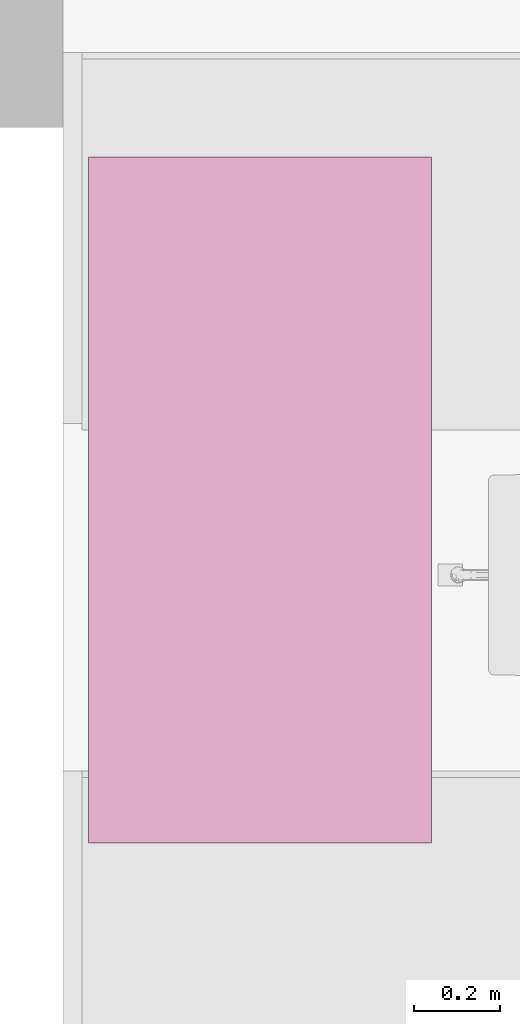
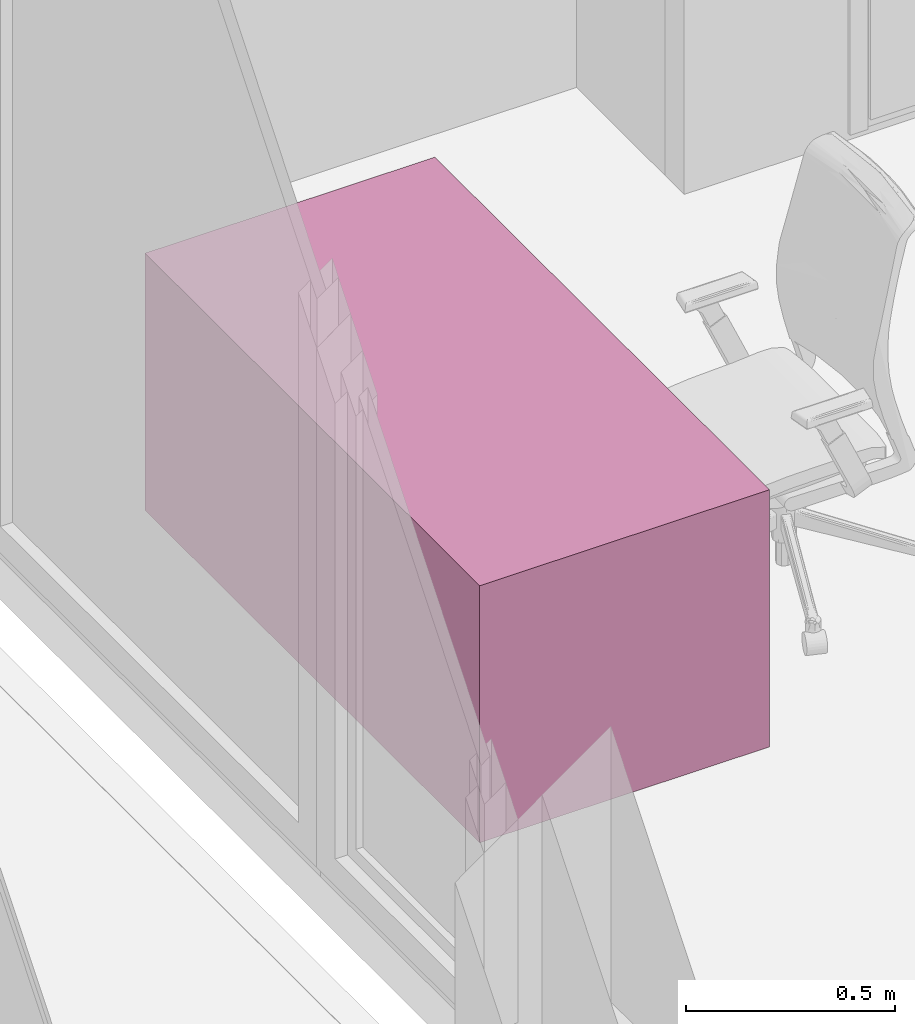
# One storey, part 32 of 57: 1 furnishing.
"""IFC2X3 building model written with IfcOpenShell, lengths in millimetres."""

from ifc_helpers import new_model, entity, si_unit, converted_unit, direction, frame, frame_2d, origin, place, context, subcontext, project, spatial, rectangle, extrude, source, transform, mapped, material, type_object, type_shapes, element, save


model = new_model("IFC2X3")

# Units and contexts
model_context = context("Model", 3, precision=0.01, world=origin(), true_north=direction((6.123233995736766e-17, 1.0)))
plan_context = context("Plan", 3, precision=0.01, world=origin(), true_north=direction((6.123233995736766e-17, 1.0)))
body_context = subcontext(model_context, "Body", "Model", "MODEL_VIEW")
ifc_project = project(units=[si_unit("LENGTHUNIT", "METRE", prefix="MILLI"), converted_unit("PLANEANGLEUNIT", "DEGREE", entity("IfcPlaneAngleMeasure", 0.017453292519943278), si_unit("PLANEANGLEUNIT", "RADIAN"), dimensions=[0, 0, 0, 0, 0, 0, 0]), si_unit("AREAUNIT", "SQUARE_METRE")], contexts=[model_context, plan_context])

# Site, building, storey, space
site_placement = place(None, origin())
site = spatial("IfcSite", under=ifc_project, at=site_placement, Name="Default", CompositionType="ELEMENT")
building_placement = place(site_placement, origin())
building = spatial("IfcBuilding", under=site, at=building_placement, CompositionType="ELEMENT")
storey_placement = place(building_placement, frame((0.0, 0.0, 12811.000000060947)))
storey = spatial("IfcBuildingStorey", under=building, at=storey_placement, Name="5K", CompositionType="ELEMENT", Elevation=12811.000000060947)
space_placement = place(storey_placement, origin())
space = spatial("IfcSpace", under=storey, at=space_placement, Name="5-12.12", CompositionType="ELEMENT", InteriorOrExteriorSpace="INTERNAL")

# Furnishing
ifc_material = material(Name="<Unnamed>")
furniture_type = type_object("IfcFurnitureType", Name="HR_Furniture_Office-desk_Placeholder_v2:Default", AssemblyPlace="NOTDEFINED", material=ifc_material)
shared_shape = source(origin(), body_context, "Body", "SweptSolid", [
    extrude(rectangle(XDim=800.0, YDim=1600.0000000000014, at=frame_2d((-1.2789769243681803e-12, -2.8421709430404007e-13), x_axis=(1.0, 0.0))), frame((-800.0, -400.0, 0.0), z_axis=(0.0, 0.0, 1.0), x_axis=(0.0, 1.0, 0.0)), (0.0, 0.0, 1.0), 750.0),
])
type_shapes(furniture_type, [shared_shape])
furnishing_placement = place(space_placement, frame((60.0, 10181.0, 0.0), z_axis=(0.0, 0.0, 1.0), x_axis=(0.0, 1.0, 0.0)))
element("IfcFurnishingElement", 1, at=furnishing_placement, inside=space, type_object=furniture_type, material=ifc_material, Name="HR_Furniture_Office-desk_Placeholder_v2:Default", ObjectType="HR_Furniture_Office-desk_Placeholder_v2:Default", context=body_context, shape_type="MappedRepresentation", body=[
    mapped(shared_shape, transform((0.0, 0.0, 0.0), scale=1.0)),
])

save(model, "model.ifc")
